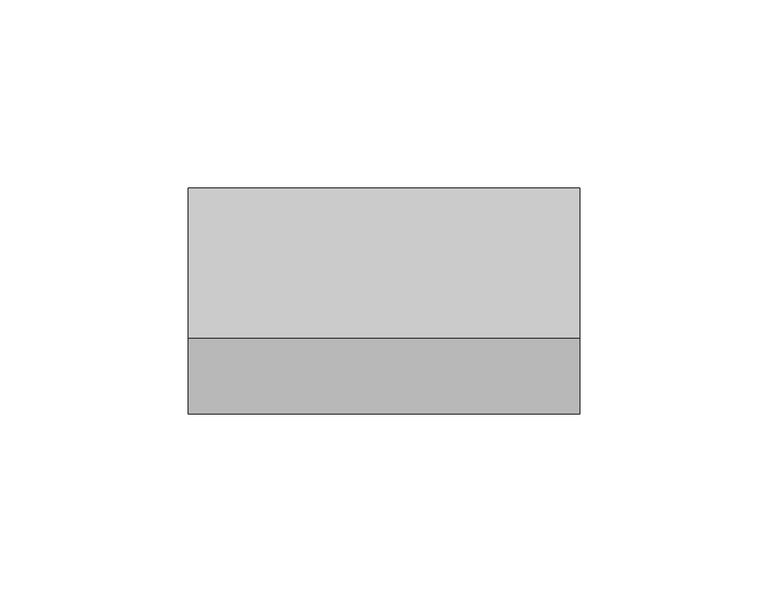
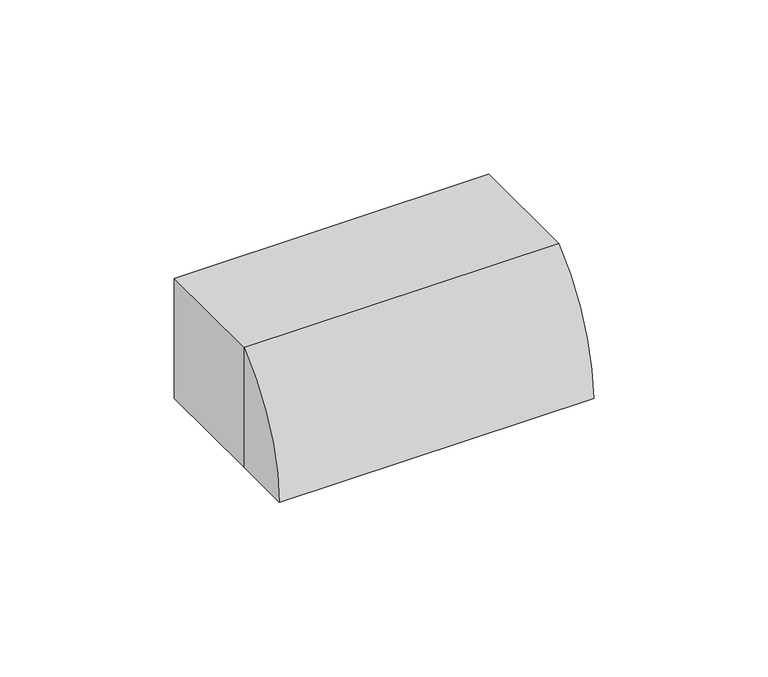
"""IFC4 building model written with IfcOpenShell, lengths in millimetres: proxy geometry, Заглушка_кабельной_трассы КМЗ : Заглушка кабельной трассы КМЗ 100х40."""

from ifc_helpers import new_model, si_unit, frame, origin, place, context, project, spatial, polyline, circle_curve, outline, extrude, source, transform, mapped, element, save
from ifc_brep_helpers import plane_surface, cylinder_surface, revolved_surface, advanced_brep


def generic_models_ab56682e(model_context):
    return source(origin(), model_context, "Body", "SolidModel", [
        advanced_brep(
        [(52.0, -40.0, 0.0), (52.0, -40.0, 42.0), (52.0, -60.0, 0.0), (-52.0, -40.0, 0.0), (-52.0, -60.0, 0.0), (-52.0, -40.0, 42.0), (50.0, -40.0, 0.0), (50.0, -40.0, 40.0), (-50.0, -40.0, 40.0), (-50.0, -40.0, 0.0), (-50.0, -58.6369021, 0.0), (50.0, -58.6369021, 0.0)],
        [
            (0, 1),
            (1, 2, circle_curve(frame((52.0, -5.1340485, -0.3647388), z_axis=(1.0, 0.0, 0.0), x_axis=(0.0, 1.0, 0.0)), 54.8671639)),
            (2, 0),
            (3, 4),
            (4, 5, circle_curve(frame((-52.0, -5.1340485, -0.3647388), z_axis=(-1.0, 0.0, 0.0), x_axis=(0.0, 1.0, 0.0)), 54.8671639)),
            (5, 3),
            (0, 6),
            (6, 7),
            (7, 8),
            (8, 9),
            (9, 3),
            (5, 1),
            (4, 2),
            (9, 10),
            (10, 11),
            (11, 6),
            (11, 7, circle_curve(frame((50.0, -4.8124322, -0.7363579), z_axis=(-1.0, 0.0, 0.0), x_axis=(0.0, 1.0, 0.0)), 53.8295066)),
            (8, 10, circle_curve(frame((-50.0, -4.8124322, -0.7363579), z_axis=(1.0, 0.0, 0.0), x_axis=(0.0, 1.0, 0.0)), 53.8295066)),
        ],
        [
            plane_surface(frame((52.0, -40.0, 42.0), z_axis=(1.0, 0.0, 0.0), x_axis=(0.0, 0.0, 1.0))),
            plane_surface(frame((-52.0, -40.0, 42.0), z_axis=(-1.0, 0.0, 0.0), x_axis=(0.0, 0.0, -1.0))),
            plane_surface(frame((52.0, -40.0, 0.0), z_axis=(0.0, 1.0, 0.0), x_axis=(-1.0, 0.0, 0.0))),
            cylinder_surface(frame((-52.0, -5.1340485, -0.3647388), z_axis=(1.0, 0.0, 0.0), x_axis=(0.0, 1.0, 0.0)), 54.8671639),
            plane_surface(frame((52.0, -60.0, 0.0), z_axis=(0.0, 0.0, -1.0), x_axis=(-1.0, 0.0, 0.0))),
            plane_surface(frame((50.0, -40.0, 40.0), z_axis=(-1.0, 0.0, 0.0), x_axis=(0.0, 0.0, 1.0))),
            plane_surface(frame((-50.0, -40.0, 40.0), z_axis=(1.0, 0.0, 0.0), x_axis=(0.0, 0.0, -1.0))),
            revolved_surface(polyline([(50.0, 49.0170744, -0.7363579), (-50.0, 49.0170744, -0.7363579)]), (-50.0, -4.8124322, -0.7363579), (1.0, 0.0, 0.0)),
        ],
        [
            (0, [[1, 2, 3]]),
            (1, [[4, 5, 6]]),
            (2, [[-1, 7, 8, 9, 10, 11, -6, 12]]),
            (3, [[-2, -12, -5, 13]]),
            (4, [[-3, -13, -4, -11, 14, 15, 16, -7]]),
            (5, [[17, -8, -16]]),
            (6, [[18, -14, -10]]),
            (7, [[-17, -15, -18, -9]]),
        ],
    ),
        extrude(outline(polyline([(42.0, 52.0), (42.0, -52.0), (0.0, -52.0), (0.0, -50.0), (40.0, -50.0), (40.0, 50.0), (0.0, 50.0), (0.0, 52.0), (42.0, 52.0)])), frame((0.0, -40.0, 0.0), z_axis=(0.0, 1.0, 0.0), x_axis=(0.0, 0.0, 1.0)), (0.0, 0.0, 1.0), 40.0),
    ])


if __name__ == "__main__":
    model = new_model("IFC4")
    model_context = context("Model", 3, world=origin())
    ifc_project = project(units=[si_unit("LENGTHUNIT", "METRE", prefix="MILLI")], contexts=[model_context])
    site = spatial("IfcSite", under=ifc_project)
    building = spatial("IfcBuilding", under=site)
    placement = place(None, origin())
    generic_models_shape = generic_models_ab56682e(model_context)
    element("IfcBuildingElementProxy", 1, Name="Заглушка_кабельной_трассы КМЗ : Заглушка кабельной трассы КМЗ 100х40", ObjectType="Заглушка_кабельной_трассы КМЗ : Заглушка кабельной трассы КМЗ 100х40", at=placement, inside=building, context=model_context, shape_type="MappedRepresentation", body=[
        mapped(generic_models_shape, transform((0.0, 0.0, 0.0), x_axis=(1.0, 0.0, 0.0), y_axis=(0.0, 1.0, 0.0), z_axis=(0.0, 0.0, 1.0))),
    ])
    save(model, "model.ifc")
